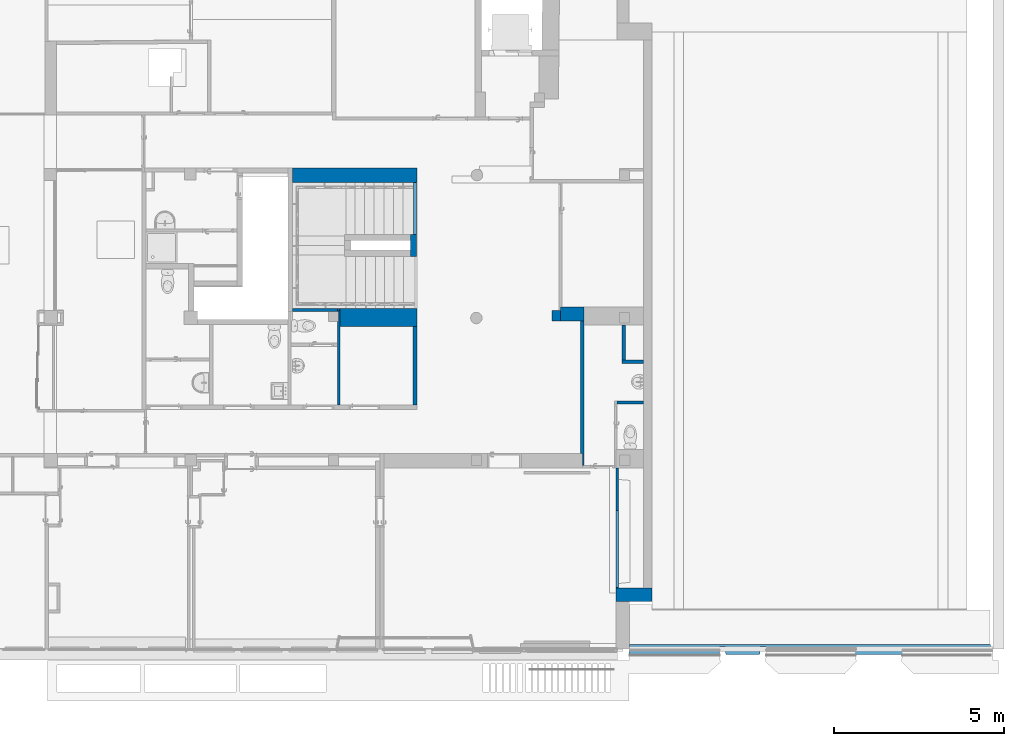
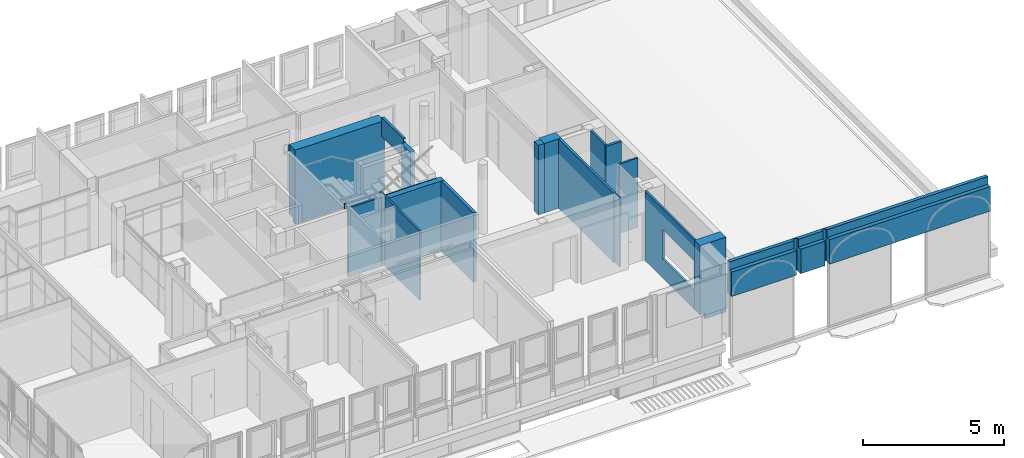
# One storey, part 78 of 97: 16 walls, 1 opening.
"""IFC4 building model written with IfcOpenShell, lengths in metres."""

from ifc_helpers import new_model, entity, si_unit, converted_unit, derived_unit, direction, frame, origin, place, context, subcontext, project, spatial, indexed_curve, outline, extrude, polygons, material, layer, layer_set, type_object, element, save


model = new_model("IFC4")

# Units and contexts
model_context = context("Model", 3, precision=1e-05, world=origin(), true_north=direction((6.12303176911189e-17, 1.0)))
body_context = subcontext(model_context, "Body", "Model", "MODEL_VIEW")
ifc_project = project(units=[si_unit("LENGTHUNIT", "METRE"), si_unit("AREAUNIT", "SQUARE_METRE"), si_unit("VOLUMEUNIT", "CUBIC_METRE"), converted_unit("PLANEANGLEUNIT", "DEGREE", entity("IfcRatioMeasure", 0.0174532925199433), si_unit("PLANEANGLEUNIT", "RADIAN"), dimensions=[0, 0, 0, 0, 0, 0, 0]), si_unit("MASSUNIT", "GRAM", prefix="KILO"), derived_unit("MASSDENSITYUNIT", [(si_unit("MASSUNIT", "GRAM", prefix="KILO"), 1), (si_unit("LENGTHUNIT", "METRE"), -3)]), derived_unit("MOMENTOFINERTIAUNIT", [(si_unit("LENGTHUNIT", "METRE"), 4)]), si_unit("TIMEUNIT", "SECOND"), si_unit("FREQUENCYUNIT", "HERTZ"), si_unit("THERMODYNAMICTEMPERATUREUNIT", "DEGREE_CELSIUS"), derived_unit("THERMALTRANSMITTANCEUNIT", [(si_unit("MASSUNIT", "GRAM", prefix="KILO"), 1), (si_unit("THERMODYNAMICTEMPERATUREUNIT", "KELVIN"), -1), (si_unit("TIMEUNIT", "SECOND"), -3)]), derived_unit("VOLUMETRICFLOWRATEUNIT", [(si_unit("LENGTHUNIT", "METRE"), 3), (si_unit("TIMEUNIT", "SECOND"), -1)]), si_unit("ELECTRICCURRENTUNIT", "AMPERE"), si_unit("ELECTRICVOLTAGEUNIT", "VOLT"), si_unit("POWERUNIT", "WATT"), si_unit("FORCEUNIT", "NEWTON", prefix="KILO"), si_unit("ILLUMINANCEUNIT", "LUX"), si_unit("LUMINOUSFLUXUNIT", "LUMEN"), si_unit("LUMINOUSINTENSITYUNIT", "CANDELA"), derived_unit("USERDEFINED", [(si_unit("MASSUNIT", "GRAM", prefix="KILO"), -1), (si_unit("LENGTHUNIT", "METRE"), -2), (si_unit("TIMEUNIT", "SECOND"), 3), (si_unit("LUMINOUSFLUXUNIT", "LUMEN"), 1)]), derived_unit("LINEARVELOCITYUNIT", [(si_unit("LENGTHUNIT", "METRE"), 1), (si_unit("TIMEUNIT", "SECOND"), -1)]), si_unit("PRESSUREUNIT", "PASCAL"), derived_unit("USERDEFINED", [(si_unit("LENGTHUNIT", "METRE"), -2), (si_unit("MASSUNIT", "GRAM", prefix="KILO"), 1), (si_unit("TIMEUNIT", "SECOND"), -2)]), derived_unit("LINEARFORCEUNIT", [(si_unit("MASSUNIT", "GRAM", prefix="KILO"), 1), (si_unit("LENGTHUNIT", "METRE"), 1), (si_unit("TIMEUNIT", "SECOND"), -2), (si_unit("LENGTHUNIT", "METRE"), -1)]), derived_unit("PLANARFORCEUNIT", [(si_unit("MASSUNIT", "GRAM", prefix="KILO"), 1), (si_unit("LENGTHUNIT", "METRE"), 1), (si_unit("TIMEUNIT", "SECOND"), -2), (si_unit("LENGTHUNIT", "METRE"), -2)])], contexts=[model_context])

# Site, building, storey
site_placement = place(None, origin())
site = spatial("IfcSite", under=ifc_project, at=site_placement, Name="Default", CompositionType="ELEMENT")
building_placement = place(site_placement, origin())
building = spatial("IfcBuilding", under=site, at=building_placement, Name="HOTEL CONSULAIRE BOULOGNE SUR MER", CompositionType="ELEMENT")
storey_placement = place(building_placement, frame((0.0, 0.0, 3.62152697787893)))
storey = spatial("IfcBuildingStorey", under=building, at=storey_placement, Name="Niveau 1", CompositionType="ELEMENT", Elevation=3.62152697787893)

# Walls
ifc_material = material(Name="Mur par défaut", Category="Divers")
ifc_layer_1 = layer(ifc_material, 0.07, Name="Mur par défaut", Category="Divers")
ifc_layer_set_1 = layer_set([ifc_layer_1], Name="Mur de base:Int. Plâtre 70 mm")
wall_type_1 = type_object("IfcWallType", Name="Mur de base:Int. Plâtre 70 mm", PredefinedType="NOTDEFINED", material=ifc_layer_set_1)
wall_1_placement = place(storey_placement, frame((3.12281360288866, -19.5649143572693, -0.0350000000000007), z_axis=(0.0, 0.0, 1.0), x_axis=(0.0, -1.0, 0.0)))
element("IfcWall", 1, at=wall_1_placement, inside=storey, type_object=wall_type_1, material=ifc_layer_set_1, Name="Mur de base:Int. Plâtre 70 mm", ObjectType="Mur de base:Int. Plâtre 70 mm", PredefinedType="NOTDEFINED", context=body_context, shape_type="Tessellation", body=[
    polygons([(2.83011324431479, -0.0349999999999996, 0.0350000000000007), (2.83011324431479, -0.0349999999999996, 3.0452145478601), (1.11067764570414, -0.0349999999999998, 3.0452145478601), (1.01067764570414, -0.0349999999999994, 3.0452145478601), (0.377995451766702, -0.0349999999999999, 3.0452145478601), (0.377995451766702, -0.0349999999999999, 0.0350000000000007), (1.01067764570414, -0.0349999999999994, 0.0350000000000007), (1.11067764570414, -0.0349999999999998, 0.0350000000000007), (0.0, -0.0349999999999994, 3.0452145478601), (0.0, -0.0349999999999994, 5.41433564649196e-16), (0.0699999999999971, -0.0349999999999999, 5.41433564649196e-16), (0.0699999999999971, -0.0349999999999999, 0.0350000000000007), (0.0779954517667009, -0.0349999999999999, 0.0350000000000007), (0.0779954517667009, -0.0349999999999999, 3.0452145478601), (0.0, 0.0350000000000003, 3.0452145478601), (0.530000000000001, 0.0350000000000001, 3.0452145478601), (2.83011324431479, 0.0350000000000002, 3.0452145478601), (2.83011324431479, 0.0350000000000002, 0.0350000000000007), (0.530000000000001, 0.0350000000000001, 0.0350000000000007), (0.0699999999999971, 0.0349999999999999, 0.0350000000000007), (0.0699999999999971, 0.0349999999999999, 5.41433564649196e-16), (0.0, 0.0350000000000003, 5.41433564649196e-16), (0.0, 1.7873173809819e-16, 5.41433564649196e-16), (0.0779954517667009, -0.00163682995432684, 3.0452145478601), (0.377995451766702, -0.00163682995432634, 3.0452145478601), (0.377995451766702, -0.00163682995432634, 0.0350000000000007), (0.0779954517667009, -0.00163682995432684, 0.0350000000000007)], [[[6, 7, 8, 1, 2, 3, 4, 5]], [[9, 10, 11, 12, 13, 14]], [[26, 25, 24, 27]], [[18, 19, 20, 21, 22, 15, 16, 17]], [[11, 10, 23, 22, 21]], [[8, 7, 6, 26, 27, 13, 12, 20, 19, 18, 1]], [[9, 14, 24, 25, 5, 4, 3, 2, 17, 16, 15]], [[15, 22, 23, 10, 9]], [[6, 5, 25, 26]], [[2, 1, 18, 17]], [[20, 12, 11, 21]], [[27, 24, 14, 13]]], closed=True),
])
ifc_layer_2 = layer(ifc_material, 0.18, Name="Mur par défaut", Category="Divers")
ifc_layer_set_2 = layer_set([ifc_layer_2], Name="Mur de base:Générique - Int.180")
wall_type_2 = type_object("IfcWallType", Name="Mur de base:Générique - Int.180", PredefinedType="NOTDEFINED", material=ifc_layer_set_2)
wall_2_placement = place(storey_placement, frame((5.32198029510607, -18.0248875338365, -0.200000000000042), z_axis=(0.0, 0.0, 1.0), x_axis=(0.0, 1.0, 0.0)))
element("IfcWall", 2, at=wall_2_placement, inside=storey, type_object=wall_type_2, material=ifc_layer_set_2, Name="Mur de base:Générique - Int.180", ObjectType="Mur de base:Générique - Int.180", PredefinedType="NOTDEFINED", context=body_context, shape_type="Tessellation", body=[
    polygons([(0.636000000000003, -0.0899999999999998, 3.21021454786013), (0.456000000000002, -0.089999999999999, 3.21021454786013), (0.180000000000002, -0.0899999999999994, 3.21021454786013), (2.16573425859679e-15, -0.0899999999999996, 3.21021454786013), (2.16573425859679e-15, -0.0899999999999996, 0.200000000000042), (0.636000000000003, -0.0899999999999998, 0.200000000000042), (0.636000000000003, 0.0900000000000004, 5.41433564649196e-16), (0.456, 0.0900000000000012, 5.41433564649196e-16), (0.18, 0.0900000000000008, 5.41433564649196e-16), (2.16573425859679e-15, 0.0900000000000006, 5.41433564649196e-16), (2.16573425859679e-15, 0.0900000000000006, 3.21021454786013), (0.18, 0.0900000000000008, 3.21021454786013), (0.456000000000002, 0.0900000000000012, 3.21021454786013), (0.636000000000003, 0.0900000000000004, 3.21021454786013), (0.636000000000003, 0.00825255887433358, 5.41433564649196e-16), (0.636000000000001, -0.0147595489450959, 5.41433564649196e-16), (0.0, -0.0147595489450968, 5.41433564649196e-16), (0.0, -0.0147595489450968, 0.00658183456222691), (0.0, -0.0147595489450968, 0.200000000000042), (0.636000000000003, -0.0147595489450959, 0.200000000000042)], [[[4, 5, 6, 1, 2, 3]], [[18, 17, 16, 20, 19]], [[7, 8, 9, 10, 11, 12, 13, 14]], [[15, 16, 17, 10, 9, 8, 7]], [[6, 5, 19, 20]], [[2, 1, 14, 13, 12, 11, 4, 3]], [[11, 10, 17, 18, 19, 5, 4]], [[20, 16, 15, 7, 14, 1, 6]]], closed=True),
])
ifc_layer_3 = layer(ifc_material, 0.1, Name="Mur par défaut", Category="Divers")
ifc_layer_set_3 = layer_set([ifc_layer_3], Name="Mur de base:Générique - Int. 100 mm")
wall_type_3 = type_object("IfcWallType", Name="Mur de base:Générique - Int. 100 mm", PredefinedType="NOTDEFINED", material=ifc_layer_set_3)
wall_3_placement = place(storey_placement, frame((10.2734778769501, -24.1627611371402, 0.0), z_axis=(0.0, 0.0, 1.0), x_axis=(0.0, 1.0, 0.0)))
element("IfcWall", 3, at=wall_3_placement, inside=storey, type_object=wall_type_3, material=ifc_layer_set_3, Name="Mur de base:Générique - Int. 100 mm", ObjectType="Mur de base:Générique - Int. 100 mm", PredefinedType="NOTDEFINED", context=body_context, shape_type="Tessellation", body=[
    polygons([(4.24182448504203, -0.0499999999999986, 3.01021454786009), (0.0, -0.0499999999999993, 3.01021454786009), (0.0, -0.0499999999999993, 0.0), (4.11182448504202, -0.0499999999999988, 0.0), (4.24182448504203, -0.0499999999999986, 0.0), (0.340000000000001, 0.0500000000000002, 3.01021454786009), (4.24182448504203, 0.0500000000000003, 3.01021454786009), (4.24182448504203, 0.0500000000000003, 0.0), (0.340000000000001, 0.0500000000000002, 0.0), (0.340000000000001, 7.51883358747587e-16, 3.01021454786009), (0.0, 1.75333777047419e-16, 3.01021454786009), (0.0, 1.75333777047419e-16, 0.0), (0.340000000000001, 7.51883358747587e-16, 0.0)], [[[2, 3, 4, 5, 1]], [[7, 8, 9, 6]], [[10, 13, 12, 11]], [[2, 1, 7, 6, 10, 11]], [[11, 12, 3, 2]], [[6, 9, 13, 10]], [[5, 8, 7, 1]], [[3, 12, 13, 9, 8, 5, 4]]], closed=True),
])
wall_4_placement = place(storey_placement, frame((12.0764778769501, -21.1279366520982, 0.0), z_axis=(0.0, 0.0, 1.0), x_axis=(-1.0, 0.0, 0.0)))
element("IfcWall", 4, at=wall_4_placement, inside=storey, type_object=wall_type_3, material=ifc_layer_set_3, Name="Mur de base:Générique - Int. 100 mm", ObjectType="Mur de base:Générique - Int. 100 mm", PredefinedType="NOTDEFINED", context=body_context, shape_type="Tessellation", body=[
    polygons([(0.0, -0.0499999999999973, 3.01321454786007), (0.0, -0.0499999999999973, 5.41433564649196e-16), (0.531575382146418, -0.0499999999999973, 5.41433564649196e-16), (0.631575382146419, -0.0499999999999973, 5.41433564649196e-16), (0.631575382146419, -0.0499999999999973, 3.01021454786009), (0.531575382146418, -0.0499999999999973, 3.01021454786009), (0.404534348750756, -0.0499999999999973, 3.01021454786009), (0.404534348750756, -0.0499999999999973, 3.01321454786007), (0.0, 0.0500000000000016, 5.41433564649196e-16), (0.0, 0.0500000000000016, 3.01321454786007), (0.404534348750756, 0.0500000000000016, 3.01321454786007), (0.404534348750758, 0.0500000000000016, 3.01021454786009), (0.631575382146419, 0.0500000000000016, 3.01021454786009), (0.631575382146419, 0.0500000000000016, 5.41433564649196e-16)], [[[2, 3, 4, 5, 6, 7, 8, 1]], [[12, 13, 14, 9, 10, 11]], [[1, 8, 11, 10]], [[5, 13, 12, 7, 6]], [[9, 2, 1, 10]], [[5, 4, 14, 13]], [[8, 7, 12, 11]], [[3, 2, 9, 14, 4]]], closed=True),
])
wall_5_placement = place(storey_placement, frame((11.4949024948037, -21.0779366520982, 0.0), z_axis=(0.0, 0.0, 1.0), x_axis=(0.0, 1.0, 0.0)))
element("IfcWall", 5, at=wall_5_placement, inside=storey, type_object=wall_type_3, material=ifc_layer_set_3, Name="Mur de base:Générique - Int. 100 mm", ObjectType="Mur de base:Générique - Int. 100 mm", PredefinedType="NOTDEFINED", context=body_context, shape_type="Tessellation", body=[
    polygons([(1.027, -0.0500000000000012, 3.01021454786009), (0.0, -0.050000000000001, 3.01021454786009), (0.0, -0.050000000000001, 0.0), (1.027, -0.0500000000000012, 0.0), (0.0, 0.0500000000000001, 3.01021454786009), (1.027, 0.0499999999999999, 3.01021454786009), (1.027, 0.0499999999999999, 0.0), (0.0, 0.0500000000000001, 0.0)], [[[2, 3, 4, 1]], [[6, 7, 8, 5]], [[2, 1, 6, 5]], [[8, 3, 2, 5]], [[4, 7, 6, 1]], [[7, 4, 3, 8]]], closed=True),
])
wall_6_placement = place(storey_placement, frame((5.36198029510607, -17.3888875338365, 2.3687), z_axis=(0.0, 0.0, 1.0), x_axis=(0.0, 1.0, 0.0)))
element("IfcWall", 6, at=wall_6_placement, inside=storey, type_object=wall_type_3, material=ifc_layer_set_3, Name="Mur de base:Générique - Int. 100 mm", ObjectType="Mur de base:Générique - Int. 100 mm", PredefinedType="NOTDEFINED", context=body_context, shape_type="Tessellation", body=[
    polygons([(1.53364549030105, -0.0500000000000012, 0.82951454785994), (0.0, -0.0500000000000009, 0.82951454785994), (0.0, -0.0500000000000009, 0.794514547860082), (1.53364549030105, -0.0500000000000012, 0.794514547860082), (0.0, -0.0500000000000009, 0.0), (1.53364549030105, -0.0500000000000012, 0.0), (1.53364549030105, -0.0500000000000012, 0.641514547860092), (1.53364549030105, -0.0500000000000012, 0.644514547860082), (0.0, -0.0500000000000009, 0.644514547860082), (0.0, -0.0500000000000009, 0.641514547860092), (1.53364549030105, 0.0499999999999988, 0.0), (0.0, 0.0499999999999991, 0.0), (2.16573425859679e-15, 0.0499999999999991, 0.82951454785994), (1.53364549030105, 0.0499999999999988, 0.82951454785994), (0.0, 0.0252404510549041, 0.644514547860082), (0.0, 0.0252404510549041, 0.794514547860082), (1.53364549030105, 0.0252404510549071, 0.794514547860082), (1.53364549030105, 0.0252404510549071, 0.644514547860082)], [[[2, 3, 4, 1]], [[10, 5, 6, 7, 8, 9]], [[16, 15, 18, 17]], [[14, 11, 12, 13]], [[6, 5, 12, 11]], [[3, 16, 17, 4]], [[2, 1, 14, 13]], [[8, 18, 15, 9]], [[3, 2, 13, 12, 5, 10, 9, 15, 16]], [[14, 1, 4, 17, 18, 8, 7, 6, 11]]], closed=True),
])
ifc_layer_4 = layer(ifc_material, 0.13, Name="Mur par défaut", Category="Divers")
ifc_layer_set_4 = layer_set([ifc_layer_4], Name="Mur de base:Générique - Int. 130 mm")
wall_type_4 = type_object("IfcWallType", Name="Mur de base:Générique - Int. 130 mm", PredefinedType="NOTDEFINED", material=ifc_layer_set_4)
wall_7_placement = place(storey_placement, frame((5.3620553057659, -20.0949143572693, 0.0), z_axis=(0.0, 0.0, 1.0), x_axis=(0.0, -1.0, 0.0)))
element("IfcWall", 7, at=wall_7_placement, inside=storey, type_object=wall_type_4, material=ifc_layer_set_4, Name="Mur de base:Générique - Int. 130 mm", ObjectType="Mur de base:Générique - Int. 130 mm", PredefinedType="NOTDEFINED", context=body_context, shape_type="Tessellation", body=[
    polygons([(2.30011324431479, -0.0649999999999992, 3.01021454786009), (0.0, -0.0649999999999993, 3.01021454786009), (0.0, -0.0649999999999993, 0.0), (2.30011324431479, -0.0649999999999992, 0.0), (0.0, 0.0650000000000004, 3.01021454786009), (2.30011324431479, 0.0650000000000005, 3.01021454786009), (2.30011324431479, 0.0650000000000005, 0.0), (0.0, 0.0650000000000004, 0.0)], [[[2, 3, 4, 1]], [[6, 7, 8, 5]], [[2, 1, 6, 5]], [[8, 3, 2, 5]], [[4, 7, 6, 1]], [[3, 8, 7, 4]]], closed=True),
])
ifc_layer_5 = layer(ifc_material, 0.3, Name="Mur par défaut", Category="Divers")
ifc_layer_set_5 = layer_set([ifc_layer_5], Name="Mur de base:Générique - Int. 300 mm")
wall_type_5 = type_object("IfcWallType", Name="Mur de base:Générique - Int. 300 mm", PredefinedType="NOTDEFINED", material=ifc_layer_set_5)
wall_8_placement = place(storey_placement, frame((9.63644692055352, -19.7709366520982, 0.0), z_axis=(0.0, 0.0, 1.0), x_axis=(-1.0, 0.0, 0.0)))
element("IfcWall", 8, at=wall_8_placement, inside=storey, type_object=wall_type_5, material=ifc_layer_set_5, Name="Mur de base:Générique - Int. 300 mm", ObjectType="Mur de base:Générique - Int. 300 mm", PredefinedType="NOTDEFINED", context=body_context, shape_type="Tessellation", body=[
    polygons([(0.249999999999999, -0.150000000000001, 3.01021454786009), (0.0, -0.150000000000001, 3.01021454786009), (0.0, -0.150000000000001, 0.0), (0.0449999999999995, -0.150000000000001, 0.0), (0.249999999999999, -0.150000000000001, 0.0), (0.0, 0.150000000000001, 3.01021454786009), (0.249999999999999, 0.150000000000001, 3.01021454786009), (0.249999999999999, 0.150000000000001, 0.0), (0.0, 0.150000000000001, 0.0)], [[[2, 3, 4, 5, 1]], [[7, 8, 9, 6]], [[1, 5, 8, 7]], [[2, 1, 7, 6]], [[3, 2, 6, 9]], [[4, 3, 9, 8, 5]]], closed=True),
])
ifc_layer_6 = layer(ifc_material, 0.53, Name="Mur par défaut", Category="Divers")
ifc_layer_set_6 = layer_set([ifc_layer_6], Name="Mur de base:Générique - Int.530")
wall_type_6 = type_object("IfcWallType", Name="Mur de base:Générique - Int.530", PredefinedType="NOTDEFINED", material=ifc_layer_set_6)
wall_9_placement = place(storey_placement, frame((3.12281360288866, -19.8299143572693, -0.200000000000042)))
element("IfcWall", 9, at=wall_9_placement, inside=storey, type_object=wall_type_6, material=ifc_layer_set_6, Name="Mur de base:Générique - Int.530", ObjectType="Mur de base:Générique - Int.530", PredefinedType="NOTDEFINED", context=body_context, shape_type="Tessellation", body=[
    polygons([(2.30424170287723, -0.265, 3.21021454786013), (2.17424170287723, -0.265, 3.21021454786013), (0.0350000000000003, -0.265, 3.21021454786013), (0.0350000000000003, -0.265, 0.200000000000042), (2.17424170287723, -0.265, 0.200000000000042), (2.30424170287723, -0.265, 0.200000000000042), (2.2139262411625, 0.265, 5.41433564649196e-16), (-2.14972180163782e-16, 0.265, 5.41433564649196e-16), (-2.14972180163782e-16, 0.265, 0.165000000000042), (0.0349999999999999, 0.265, 0.165000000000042), (0.0349999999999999, 0.265, 2.99821454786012), (2.30424170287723, 0.265, 2.99821454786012), (2.30424170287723, 0.265, 0.200000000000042), (2.2139262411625, 0.265, 0.200000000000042), (2.21392624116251, 0.195000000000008, 5.41433564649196e-16), (-3.17112117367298e-17, 0.195000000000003, 5.41433564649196e-16), (2.30424170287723, -0.0329954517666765, 3.21021454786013), (0.0350000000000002, -0.0329954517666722, 3.21021454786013), (2.30424170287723, -0.0329954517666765, 2.99821454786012), (2.21392624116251, 0.195000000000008, 0.200000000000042), (0.0350000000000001, 0.195000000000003, 0.200000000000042), (0.0350000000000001, 0.195000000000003, 0.165000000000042), (-3.17112117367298e-17, 0.195000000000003, 0.165000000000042), (0.0350000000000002, -0.0329954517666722, 2.99821454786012)], [[[3, 4, 5, 6, 1, 2]], [[22, 23, 16, 15, 20, 21]], [[12, 13, 14, 7, 8, 9, 10, 11]], [[19, 24, 18, 17]], [[15, 16, 8, 7]], [[20, 14, 13, 6, 5, 4, 21]], [[2, 1, 17, 18, 3]], [[9, 23, 22, 10]], [[12, 11, 24, 19]], [[17, 1, 6, 13, 12, 19]], [[20, 15, 7, 14]], [[16, 23, 9, 8]], [[3, 18, 24, 11, 10, 22, 21, 4]]], closed=True),
])
ifc_layer_7 = layer(ifc_material, 0.3, Name="Mur par défaut", Category="Divers")
ifc_layer_set_7 = layer_set([ifc_layer_7], Name="Mur de base:Générique - Ext. 300 mm")
wall_type_7 = type_object("IfcWallType", Name="Mur de base:Générique - Ext. 300 mm", PredefinedType="NOTDEFINED", material=ifc_layer_set_7)
wall_10_placement = place(storey_placement, frame((11.6596042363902, -29.5740671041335, 1.60503552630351)))
element("IfcWall", 10, at=wall_10_placement, inside=storey, type_object=wall_type_7, material=ifc_layer_set_7, Name="Mur de base:Générique - Ext. 300 mm", ObjectType="Mur de base:Générique - Ext. 300 mm", PredefinedType="NOTDEFINED", context=body_context, shape_type="Tessellation", body=[
    polygons([(10.6083317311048, -0.150000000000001, 0.0), (10.6083317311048, -0.150000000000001, 1.06517902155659), (4.00881932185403, -0.150000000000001, 1.06517902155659), (4.00881932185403, -0.150000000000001, 0.0), (2.83349432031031, -0.149999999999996, 0.0), (3.82219864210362, -0.149999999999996, 0.0), (3.82219864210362, -0.149999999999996, 1.06517902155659), (2.83349432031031, -0.149999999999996, 1.06517902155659), (9.67088972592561e-16, 0.0099999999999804, 1.06517902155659), (1.7576231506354e-15, -0.150000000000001, 1.06517902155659), (2.6468736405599, -0.150000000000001, 1.06517902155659), (2.64687364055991, 0.0099999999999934, 1.06517902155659), (3.82881932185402, -0.112999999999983, 1.06517902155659), (3.82881932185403, 0.00999999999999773, 1.06517902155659), (2.82687364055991, 0.0099999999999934, 1.06517902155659), (2.82687364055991, -0.112999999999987, 1.06517902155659), (9.67088972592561e-16, 0.0099999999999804, 1.40517902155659), (2.64687364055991, 0.0099999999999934, 1.40517902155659), (3.82881932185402, 0.00999999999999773, 1.40517902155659), (2.82687364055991, 0.0099999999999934, 1.40517902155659), (1.7576231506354e-15, -0.150000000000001, 0.0), (2.6468736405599, -0.150000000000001, 0.0), (10.6083317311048, 0.150000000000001, 0.0), (2.44110582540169e-15, 0.150000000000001, 0.0), (2.44110582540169e-15, 0.150000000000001, 1.40517902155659), (10.6083317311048, 0.150000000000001, 1.40517902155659), (4.00881932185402, 0.0930000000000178, 0.0), (3.82881932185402, 0.0930000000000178, 0.0), (3.82881932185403, -0.112999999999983, 0.0), (2.82687364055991, -0.112999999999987, 0.0), (2.82687364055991, 0.0930000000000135, 0.0), (2.6468736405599, 0.0930000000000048, 0.0), (2.6468736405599, 0.0930000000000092, 1.40517902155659), (2.82687364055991, 0.0930000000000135, 1.40517902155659), (3.82881932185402, 0.0930000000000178, 1.40517902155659), (4.00881932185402, 0.0930000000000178, 1.40517902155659), (4.00881932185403, 0.00999999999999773, 1.40517902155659), (10.6083317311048, 0.0100000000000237, 1.40517902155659), (10.6083317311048, 0.0100000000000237, 1.06517902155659), (4.00881932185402, 0.00999999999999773, 1.06517902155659)], [[[3, 4, 1, 2]], [[8, 5, 6, 7]], [[17, 9, 12, 18]], [[15, 14, 19, 20]], [[10, 21, 22, 11]], [[40, 39, 38, 37]], [[31, 34, 33, 32]], [[28, 27, 36, 35]], [[9, 10, 11, 12]], [[7, 13, 14, 15, 16, 8]], [[37, 38, 26, 25, 17, 18, 33, 34, 20, 19, 35, 36]], [[3, 2, 39, 40]], [[26, 23, 24, 25]], [[32, 22, 21, 24, 23, 1, 4, 27, 28, 29, 6, 5, 30, 31]], [[21, 10, 9, 17, 25, 24]], [[20, 34, 31, 30, 16, 15]], [[37, 36, 27, 4, 3, 40]], [[33, 18, 12, 11, 22, 32]], [[35, 19, 14, 13, 29, 28]], [[39, 2, 1, 23, 26, 38]], [[30, 5, 8, 16]], [[29, 13, 7, 6]]], closed=True),
])
ifc_layer_8 = layer(ifc_material, 0.08, Name="Mur par défaut", Category="Divers")
ifc_layer_set_8 = layer_set([ifc_layer_8], Name="Mur de base:Générique - Int. 80")
wall_type_8 = type_object("IfcWallType", Name="Mur de base:Générique - Int. 80", PredefinedType="NOTDEFINED", material=ifc_layer_set_8)
wall_11_placement = place(storey_placement, frame((1.62747131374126, -19.6049143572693, -0.200000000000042)))
element("IfcWall", 11, at=wall_11_placement, inside=storey, type_object=wall_type_8, material=ifc_layer_set_8, Name="Mur de base:Générique - Int. 80", ObjectType="Mur de base:Générique - Int. 80", PredefinedType="NOTDEFINED", context=body_context, shape_type="Tessellation", body=[
    polygons([(0.13, -0.0399999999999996, 2.96821454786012), (0.13, -0.0399999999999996, 0.200000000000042), (1.19370545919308, -0.0399999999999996, 0.200000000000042), (1.19370545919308, -0.0399999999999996, 2.99821454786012), (0.0525361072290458, -0.0399999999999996, 2.99821454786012), (0.0525361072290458, -0.0399999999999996, 3.21021454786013), (-5.53107339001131e-18, -0.0399999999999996, 3.21021454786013), (-5.53107339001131e-18, -0.0399999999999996, 2.96821454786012), (1.49534228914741, 0.0399999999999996, 5.41433564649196e-16), (0.13, 0.0399999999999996, 5.41433564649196e-16), (0.13, 0.0399999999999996, 2.96821454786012), (-2.1497218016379e-16, 0.0399999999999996, 2.96821454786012), (-2.1497218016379e-16, 0.0399999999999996, 3.21021454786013), (0.0525361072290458, 0.0399999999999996, 3.21021454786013), (0.0525361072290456, 0.0399999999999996, 2.99821454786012), (1.46034228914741, 0.0399999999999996, 2.99821454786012), (1.46034228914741, 0.0399999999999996, 0.165000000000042), (1.49534228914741, 0.0399999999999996, 0.165000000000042), (1.49534228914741, -0.0299999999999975, 5.41433564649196e-16), (0.13, -0.0300000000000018, 5.41433564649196e-16), (1.49534228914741, -0.0299999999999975, 0.165000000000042), (1.46034228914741, -0.0299999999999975, 0.165000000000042), (1.46034228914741, -0.0299999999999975, 0.200000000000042), (1.46034228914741, -0.0379954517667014, 2.99821454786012), (1.46034228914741, -0.0379954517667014, 0.200000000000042), (0.13, -0.0300000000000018, 0.200000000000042), (1.19370545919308, -0.0379954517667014, 0.200000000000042), (0.13, -0.0300000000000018, 0.103178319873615), (1.19370545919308, -0.0379954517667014, 2.99821454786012)], [[[8, 1, 2, 3, 4, 5, 6, 7]], [[20, 19, 21, 22, 23, 26, 28]], [[25, 24, 29, 27]], [[18, 9, 10, 11, 12, 13, 14, 15, 16, 17]], [[19, 20, 10, 9]], [[3, 2, 26, 23, 25, 27]], [[1, 8, 12, 11]], [[7, 6, 14, 13]], [[17, 22, 21, 18]], [[16, 15, 5, 4, 29, 24]], [[21, 19, 9, 18]], [[23, 22, 17, 16, 24, 25]], [[27, 29, 4, 3]], [[5, 15, 14, 6]], [[2, 1, 11, 10, 20, 28, 26]], [[13, 12, 8, 7]]], closed=True),
])

# Wall, opening
wall_12_placement = place(storey_placement, frame((11.2996042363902, -27.7610483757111, 0.0), z_axis=(0.0, 0.0, 1.0), x_axis=(0.0, 1.0, 0.0)))
wall_12 = element("IfcWall", 12, at=wall_12_placement, inside=storey, type_object=wall_type_8, material=ifc_layer_set_8, Name="Mur de base:Générique - Int. 80", ObjectType="Mur de base:Générique - Int. 80", PredefinedType="NOTDEFINED", context=body_context, shape_type="Tessellation", body=[
    polygons([(3.51828723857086, -0.0399999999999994, 3.01021454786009), (0.0, -0.0399999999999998, 3.01021454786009), (0.0, -0.0399999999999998, 0.0), (3.51828723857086, -0.0399999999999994, 0.0), (0.00699999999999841, -0.0399999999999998, 2.10956215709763), (2.2722805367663, -0.0399999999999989, 2.10956215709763), (2.2722805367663, -0.0399999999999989, 0.819452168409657), (0.00699999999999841, -0.0399999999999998, 0.819452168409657), (0.0, 0.0399999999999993, 3.01021454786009), (3.51828723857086, 0.0399999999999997, 3.01021454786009), (3.51828723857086, 0.0399999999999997, 0.0), (0.0, 0.0399999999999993, 0.0), (2.2722805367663, 0.0400000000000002, 2.10956215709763), (0.00699999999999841, 0.0399999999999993, 2.10956215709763), (0.00699999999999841, 0.0399999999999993, 0.819452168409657), (2.2722805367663, 0.0400000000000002, 0.819452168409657)], [[[3, 4, 1, 2], [5, 6, 7, 8]], [[11, 12, 9, 10], [13, 14, 15, 16]], [[2, 1, 10, 9]], [[7, 16, 15, 8]], [[12, 3, 2, 9]], [[16, 7, 6, 13]], [[4, 11, 10, 1]], [[8, 15, 14, 5]], [[5, 14, 13, 6]], [[4, 3, 12, 11]]], closed=True),
])
opening_placement = place(wall_12_placement, frame((0.00700000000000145, 0.0399999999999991, 0.819452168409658)))
element("IfcOpeningElement", 13, at=opening_placement, cuts=wall_12, Name="Mur de base:Générique - Int. 80", ObjectType="Opening", PredefinedType="OPENING", context=body_context, shape_type="SweptSolid", body=[
    extrude(outline(indexed_curve([(-0.645054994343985, -1.13264026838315), (0.645054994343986, -1.13264026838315), (0.645054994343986, 1.13264026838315), (-0.645054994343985, 1.13264026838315), (-0.645054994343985, -1.13264026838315)], self_intersect=False)), frame((1.13264026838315, -0.0799999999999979, 0.645054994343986), z_axis=(0.0, 1.0, 0.0), x_axis=(0.0, 0.0, -1.0)), (0.0, 0.0, 1.0), 0.0799999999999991),
])

# Walls
wall_13_placement = place(storey_placement, frame((11.2994778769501, -22.3227611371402, 0.0)))
element("IfcWall", 14, at=wall_13_placement, inside=storey, type_object=wall_type_8, material=ifc_layer_set_8, Name="Mur de base:Générique - Int. 80", ObjectType="Mur de base:Générique - Int. 80", PredefinedType="NOTDEFINED", context=body_context, shape_type="Tessellation", body=[
    polygons([(0.776999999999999, -0.0399999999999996, 5.41433564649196e-16), (0.776999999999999, -0.0399999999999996, 3.01321454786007), (0.372465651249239, -0.0399999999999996, 3.01321454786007), (0.372465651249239, -0.0399999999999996, 3.01021454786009), (0.0, -0.0399999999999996, 3.01021454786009), (0.0, -0.0399999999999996, 5.41433564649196e-16), (0.776999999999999, 0.0399999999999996, 3.01321454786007), (0.776999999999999, 0.0399999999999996, 5.41433564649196e-16), (0.0, 0.0399999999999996, 5.41433564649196e-16), (0.0, 0.0399999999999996, 3.01021454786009), (0.372465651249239, 0.0399999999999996, 3.01021454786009), (0.372465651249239, 0.0399999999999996, 3.01321454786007)], [[[4, 5, 6, 1, 2, 3]], [[7, 8, 9, 10, 11, 12]], [[3, 2, 7, 12]], [[10, 5, 4, 11]], [[10, 9, 6, 5]], [[12, 11, 4, 3]], [[2, 1, 8, 7]], [[9, 8, 1, 6]]], closed=True),
])
ifc_layer_9 = layer(ifc_material, 0.42, Name="Mur par défaut", Category="Divers")
ifc_layer_set_9 = layer_set([ifc_layer_9], Name="Mur de base:Générique - Int.420")
wall_type_9 = type_object("IfcWallType", Name="Mur de base:Générique - Int.420", PredefinedType="NOTDEFINED", material=ifc_layer_set_9)
wall_14_placement = place(storey_placement, frame((5.42447131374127, -15.6452420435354, -0.200000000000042), z_axis=(0.0, 0.0, 1.0), x_axis=(-1.0, 0.0, 0.0)))
element("IfcWall", 15, at=wall_14_placement, inside=storey, type_object=wall_type_9, material=ifc_layer_set_9, Name="Mur de base:Générique - Int.420", ObjectType="Mur de base:Générique - Int.420", PredefinedType="NOTDEFINED", context=body_context, shape_type="Tessellation", body=[
    polygons([(3.732, -0.209999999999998, 3.21021454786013), (5.03465777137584e-16, -0.21, 3.21021454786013), (5.03465777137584e-16, -0.21, 0.200000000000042), (3.667, -0.209999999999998, 0.200000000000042), (3.667, -0.209999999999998, 2.96821454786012), (3.732, -0.209999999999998, 2.96821454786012), (-4.2572461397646e-16, 0.21, 0.200000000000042), (1.74000964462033e-15, 0.21, 3.21021454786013), (3.667, 0.210000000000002, 3.21021454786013), (3.667, 0.210000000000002, 5.41433564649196e-16), (0.110743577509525, 0.210000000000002, 5.41433564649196e-16), (0.110743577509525, 0.210000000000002, 0.200000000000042), (3.667, 0.0550000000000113, 5.41433564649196e-16), (0.110743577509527, 0.0550000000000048, 5.41433564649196e-16), (3.732, -0.152363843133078, 3.21021454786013), (3.667, -0.152363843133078, 3.21021454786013), (0.110743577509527, 0.0550000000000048, 0.200000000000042), (3.667, 0.0550000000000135, 0.200000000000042), (3.667, 0.0550000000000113, 0.103178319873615), (3.732, -0.152363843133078, 2.96821454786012), (3.667, -0.152363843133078, 2.96821454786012)], [[[2, 3, 4, 5, 6, 1]], [[19, 18, 17, 14, 13]], [[9, 10, 11, 12, 7, 8]], [[21, 16, 15, 20]], [[13, 14, 11, 10]], [[7, 12, 17, 18, 4, 3]], [[21, 20, 6, 5]], [[16, 9, 8, 2, 1, 15]], [[3, 2, 8, 7]], [[17, 12, 11, 14]], [[1, 6, 20, 15]], [[19, 13, 10, 9, 16, 21, 5, 4, 18]]], closed=True),
])
ifc_layer_10 = layer(ifc_material, 0.4, Name="Mur par défaut", Category="Divers")
ifc_layer_set_10 = layer_set([ifc_layer_10], Name="Mur de base:Générique - Int.400")
wall_type_10 = type_object("IfcWallType", Name="Mur de base:Générique - Int.400", PredefinedType="NOTDEFINED", material=ifc_layer_set_10)
wall_15_placement = place(storey_placement, frame((11.2596042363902, -27.9610483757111, -0.235)))
element("IfcWall", 16, at=wall_15_placement, inside=storey, type_object=wall_type_10, material=ifc_layer_set_10, Name="Mur de base:Générique - Int.400", ObjectType="Mur de base:Générique - Int.400", PredefinedType="NOTDEFINED", context=body_context, shape_type="Tessellation", body=[
    polygons([(1.06687364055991, -0.200000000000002, 3.24521454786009), (0.4, -0.200000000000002, 3.24521454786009), (0.0, -0.200000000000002, 3.24521454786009), (0.0, -0.200000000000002, 0.235), (0.217034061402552, -0.200000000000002, 0.235), (0.217034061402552, -0.200000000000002, -5.41433564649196e-16), (0.4, -0.200000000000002, -5.41433564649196e-16), (1.06687364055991, -0.200000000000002, -5.41433564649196e-16), (0.0, 0.199999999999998, 3.24521454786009), (0.0800000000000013, 0.199999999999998, 3.24521454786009), (1.06687364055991, 0.199999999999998, 3.24521454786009), (1.06687364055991, 0.199999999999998, -5.41433564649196e-16), (0.916873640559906, 0.199999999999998, -5.41433564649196e-16), (0.916873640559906, 0.199999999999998, 0.235), (0.816873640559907, 0.199999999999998, 0.235), (0.0800000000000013, 0.199999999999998, 0.235), (0.0, 0.199999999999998, 0.235), (0.217034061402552, -0.0873030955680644, -5.41433564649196e-16), (0.916873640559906, -0.0873030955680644, -5.41433564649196e-16), (0.916873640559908, -0.0873030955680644, 0.235), (0.217034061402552, -0.0873030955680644, 0.235)], [[[3, 4, 5, 6, 7, 8, 1, 2]], [[12, 13, 14, 15, 16, 17, 9, 10, 11]], [[21, 20, 19, 18]], [[7, 6, 18, 19, 13, 12, 8]], [[15, 14, 20, 21, 5, 4, 17, 16]], [[2, 1, 11, 10, 9, 3]], [[1, 8, 12, 11]], [[20, 14, 13, 19]], [[21, 18, 6, 5]], [[9, 17, 4, 3]]], closed=True),
])
wall_16_placement = place(storey_placement, frame((10.3234778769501, -19.7209366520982, 0.0), z_axis=(0.0, 0.0, 1.0), x_axis=(-1.0, 0.0, 0.0)))
element("IfcWall", 17, at=wall_16_placement, inside=storey, type_object=wall_type_10, material=ifc_layer_set_10, Name="Mur de base:Générique - Int.400", ObjectType="Mur de base:Générique - Int.400", PredefinedType="NOTDEFINED", context=body_context, shape_type="Tessellation", body=[
    polygons([(0.687030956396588, -0.200000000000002, 3.01021454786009), (0.0, -0.200000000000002, 3.01021454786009), (0.0, -0.200000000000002, 0.0), (0.642030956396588, -0.200000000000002, 0.0), (0.687030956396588, -0.200000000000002, 0.0), (0.0, 0.199999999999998, 3.01021454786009), (0.0999999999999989, 0.199999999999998, 3.01021454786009), (0.687030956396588, 0.199999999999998, 3.01021454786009), (0.687030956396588, 0.199999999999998, 0.0), (0.0999999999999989, 0.199999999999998, 0.0), (0.0, 0.199999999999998, 0.0), (0.687030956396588, -0.100000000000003, 3.01021454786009), (0.687030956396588, -0.100000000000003, 0.0)], [[[2, 3, 4, 5, 1]], [[8, 9, 10, 11, 6, 7]], [[12, 1, 5, 13, 9, 8]], [[2, 1, 12, 8, 7, 6]], [[6, 11, 3, 2]], [[3, 11, 10, 9, 13, 5, 4]]], closed=True),
])

save(model, "model.ifc")
